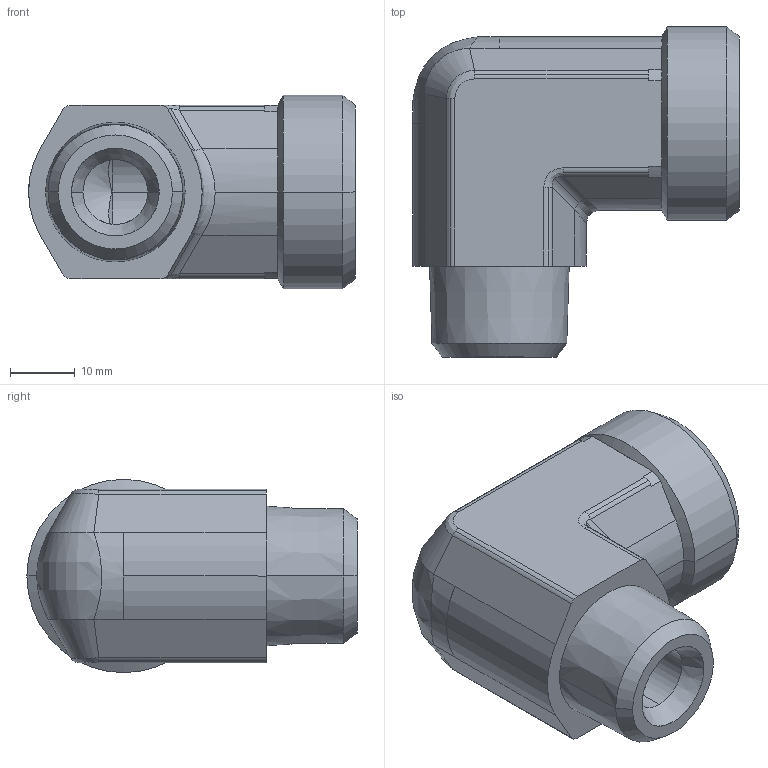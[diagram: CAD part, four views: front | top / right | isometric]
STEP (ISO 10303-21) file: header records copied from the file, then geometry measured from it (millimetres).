
FILE_DESCRIPTION((''),'2;1');
FILE_NAME('102038.stp','2007-10-30T16:34:36',(''),(''),'AutoCAD STEP 2000i','AutoCAD 2000i',', , ');
FILE_SCHEMA(('CONFIG_CONTROL_DESIGN'));
Length unit declared in the file: millimetre
Products named in the file (2): 102038.0; 3090#0
Assembly tree (1 placements, depth 2):
  102038.0
    3090#0
Bounding box: 50.38 x 50.91 x 29.82 mm (x, y, z)
Volume: 28976 mm3; surface area: 10107.6 mm2
Topology: 1 solids, 1 shells, 95 faces, 234 edges, 143 vertices
Faces by surface type: cylinder 40, plane 26, cone 15, bspline 14
Entity records: 3817 total; most frequent: CARTESIAN_POINT 1455, DIRECTION 494, ORIENTED_EDGE 468, EDGE_CURVE 234, AXIS2_PLACEMENT_3D 198, VERTEX_POINT 143, CIRCLE 105, EDGE_LOOP 99
